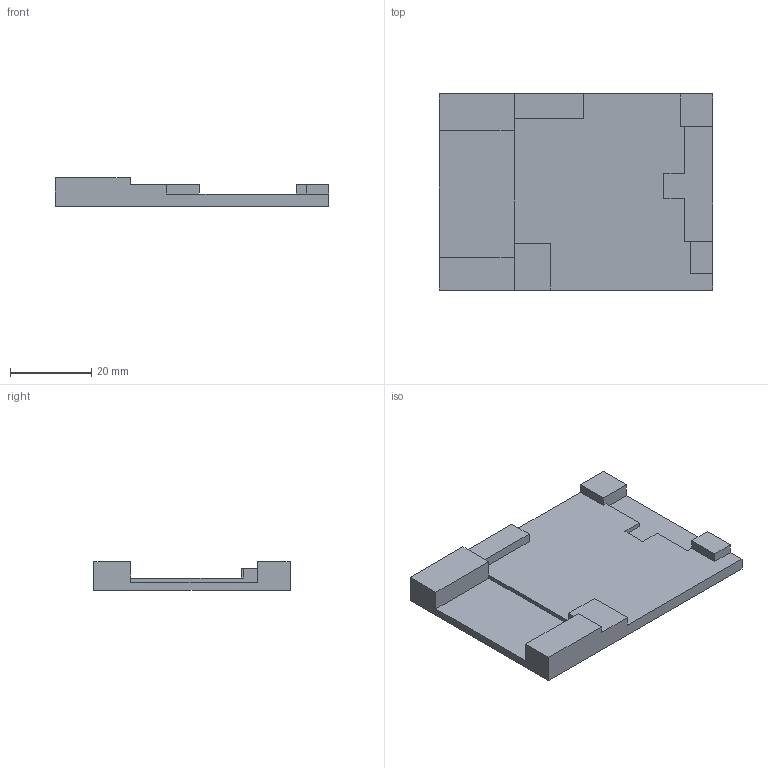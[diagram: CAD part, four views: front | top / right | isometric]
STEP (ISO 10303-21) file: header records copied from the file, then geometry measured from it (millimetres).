
FILE_DESCRIPTION(('FreeCAD Model'),'2;1');
FILE_NAME('Open CASCADE Shape Model','2025-03-08T17:36:03',(''),(''), 'Open CASCADE STEP processor 7.8','FreeCAD','Unknown');
FILE_SCHEMA(('AUTOMOTIVE_DESIGN { 1 0 10303 214 1 1 1 1 }'));
Length unit declared in the file: millimetre
Products named in the file (1): Body
Bounding box: 67.2 x 48.2 x 7 mm (x, y, z)
Volume: 10886.9 mm3; surface area: 7933.1 mm2
Topology: 1 solids, 1 shells, 33 faces, 91 edges, 60 vertices
Faces by surface type: plane 33
Entity records: 1051 total; most frequent: CARTESIAN_POINT 185, ORIENTED_EDGE 182, DIRECTION 159, EDGE_CURVE 91, LINE 91, VECTOR 91, VERTEX_POINT 60, AXIS2_PLACEMENT_3D 34
